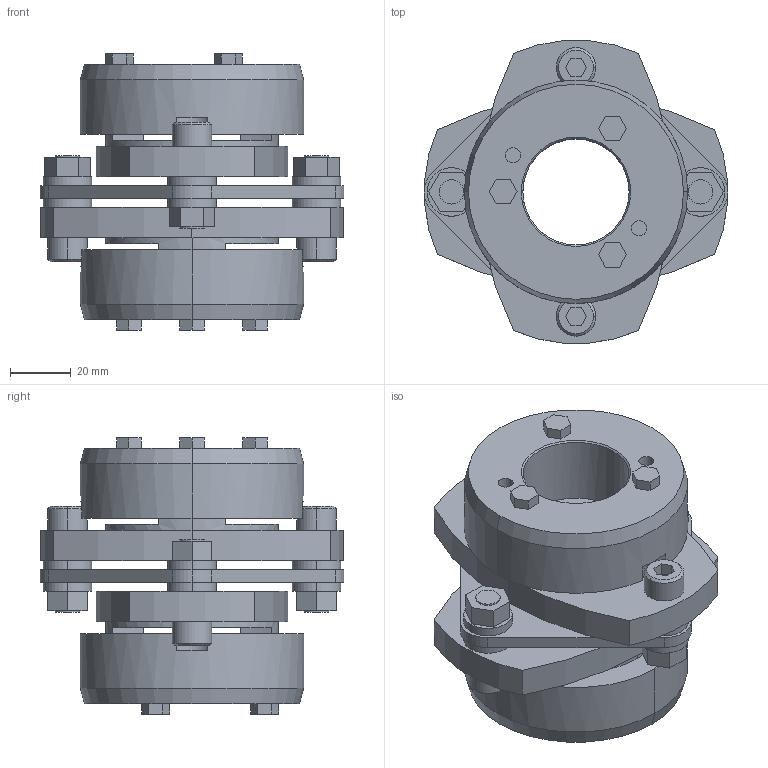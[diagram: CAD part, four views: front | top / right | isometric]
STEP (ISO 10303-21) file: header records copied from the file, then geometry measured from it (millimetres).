
FILE_DESCRIPTION((''),'2;1');
FILE_NAME('LCS-100T7-35×35.stp','2011-09-09T08:22:23',(''),(''),'AutoCAD STEP 2000i','AutoCAD 2000i',', , ');
FILE_SCHEMA(('CONFIG_CONTROL_DESIGN'));
Length unit declared in the file: millimetre
Products named in the file (9): LCS-100T7-35×35; 忣兜1; LC100T7-T035-1; LC100T7-T035; LC100T7-T030; LC100T7-T025; LC100T7-T022-1; LC100T7-T022; LCS100-ITA
Assembly tree (8 placements, depth 2):
  LCS-100T7-35×35
    忣兜1
    LC100T7-T035-1
    LC100T7-T035
    LC100T7-T030
    LC100T7-T025
    LC100T7-T022-1
    LC100T7-T022
    LCS100-ITA
Bounding box: 100 x 99.93 x 91 mm (x, y, z)
Volume: 275065.3 mm3; surface area: 67028.2 mm2
Topology: 1 solids, 1 shells, 240 faces, 592 edges, 388 vertices
Faces by surface type: plane 136, cylinder 84, cone 20
Entity records: 7371 total; most frequent: DIRECTION 1302, CARTESIAN_POINT 1229, ORIENTED_EDGE 1184, EDGE_CURVE 592, AXIS2_PLACEMENT_3D 461, VERTEX_POINT 388, VECTOR 380, LINE 380
